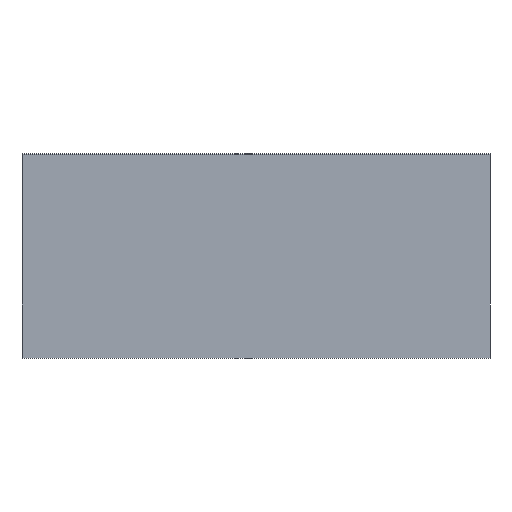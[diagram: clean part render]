
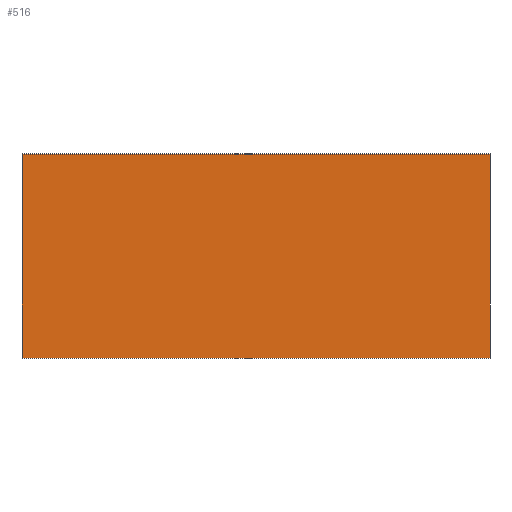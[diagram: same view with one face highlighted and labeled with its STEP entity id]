
A CAD part, front view. The second image highlights one B-rep face of the part: STEP entity #516.
In plain terms, the highlighted planar face has unit normal (0, -1, 0).
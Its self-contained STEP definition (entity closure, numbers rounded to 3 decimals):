
#224=DIRECTION('',(0.,0.,1.));
#225=VECTOR('',#224,423.7);
#226=CARTESIAN_POINT('',(-486.5,-0.8,-425.));
#227=LINE('',#226,#225);
#284=DIRECTION('',(0.,0.,1.));
#285=VECTOR('',#284,423.7);
#286=CARTESIAN_POINT('',(486.5,-0.8,-425.));
#287=LINE('',#286,#285);
#292=DIRECTION('',(-1.,0.,0.));
#293=VECTOR('',#292,973.);
#294=CARTESIAN_POINT('',(486.5,-0.8,-1.3));
#295=LINE('',#294,#293);
#296=DIRECTION('',(1.,0.,0.));
#297=VECTOR('',#296,973.);
#298=CARTESIAN_POINT('',(-486.5,-0.8,-425.));
#299=LINE('',#298,#297);
#322=CARTESIAN_POINT('',(-486.5,-0.8,-425.));
#323=CARTESIAN_POINT('',(486.5,-0.8,-425.));
#324=VERTEX_POINT('',#322);
#325=VERTEX_POINT('',#323);
#338=CARTESIAN_POINT('',(486.5,-0.8,-1.3));
#339=CARTESIAN_POINT('',(-486.5,-0.8,-1.3));
#340=VERTEX_POINT('',#338);
#341=VERTEX_POINT('',#339);
#504=CARTESIAN_POINT('',(-486.5,-0.8,-425.));
#505=DIRECTION('',(0.,1.,0.));
#506=DIRECTION('',(0.,0.,1.));
#507=AXIS2_PLACEMENT_3D('',#504,#505,#506);
#508=PLANE('',#507);
#510=ORIENTED_EDGE('',*,*,#509,.F.);
#511=ORIENTED_EDGE('',*,*,#486,.F.);
#512=ORIENTED_EDGE('',*,*,#498,.F.);
#513=ORIENTED_EDGE('',*,*,#399,.T.);
#514=EDGE_LOOP('',(#510,#511,#512,#513));
#515=FACE_OUTER_BOUND('',#514,.F.);
#399=EDGE_CURVE('',#324,#341,#227,.T.);
#486=EDGE_CURVE('',#325,#340,#287,.T.);
#498=EDGE_CURVE('',#324,#325,#299,.T.);
#509=EDGE_CURVE('',#340,#341,#295,.T.);
#516=ADVANCED_FACE('',(#515),#508,.F.);
